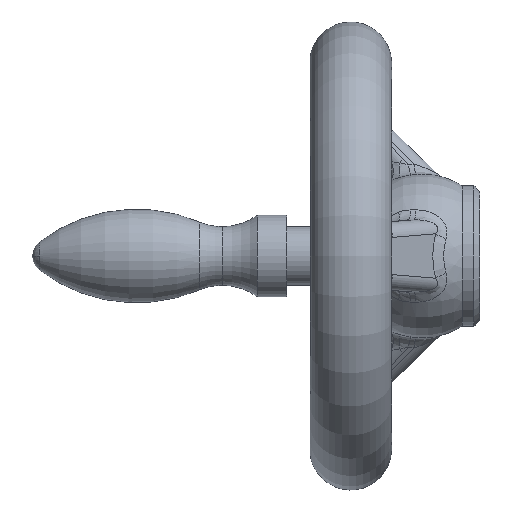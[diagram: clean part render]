
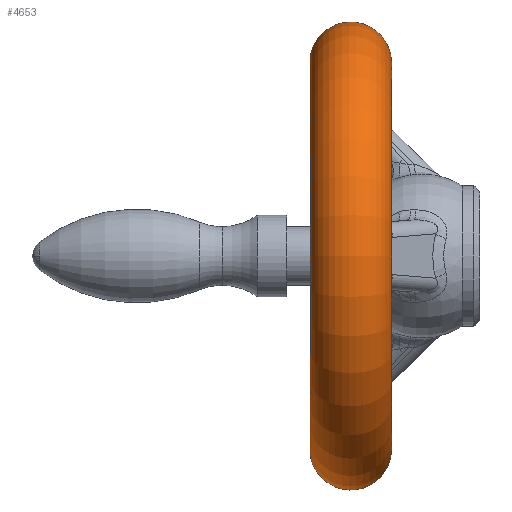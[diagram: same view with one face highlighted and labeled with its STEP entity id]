
A CAD part, left-side view. The second image highlights one B-rep face of the part: STEP entity #4653.
In plain terms, the highlighted toroidal (fillet/blend) face has major radius 33 mm and minor radius 7 mm.
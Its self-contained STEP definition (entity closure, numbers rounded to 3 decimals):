
#2538 = ORIENTED_EDGE ( 'NONE', *, *, #8335, .F. ) ;
#2693 = EDGE_LOOP ( 'NONE', ( #2538, #4658, #4661, #22777 ) ) ;
#4653 = ADVANCED_FACE ( 'NONE', ( #17841 ), #17839, .T. ) ;
#4658 = ORIENTED_EDGE ( 'NONE', *, *, #9656, .T. ) ;
#4661 = ORIENTED_EDGE ( 'NONE', *, *, #8287, .T. ) ;
#7942 = VERTEX_POINT ( 'NONE', #18082 ) ;
#8005 = VERTEX_POINT ( 'NONE', #18106 ) ;
#8082 = EDGE_CURVE ( 'NONE', #7942, #8005, #18104, .T. ) ;
#8287 = EDGE_CURVE ( 'NONE', #9606, #8005, #18087, .T. ) ;
#8335 = EDGE_CURVE ( 'NONE', #9646, #7942, #18127, .T. ) ;
#9606 = VERTEX_POINT ( 'NONE', #19065 ) ;
#9646 = VERTEX_POINT ( 'NONE', #19099 ) ;
#9656 = EDGE_CURVE ( 'NONE', #9646, #9606, #20868, .T. ) ;
#17833 = DIRECTION ( 'NONE',  ( 0., 0., -1. ) ) ;
#17834 = DIRECTION ( 'NONE',  ( 0., -1., 0. ) ) ;
#17835 = CARTESIAN_POINT ( 'NONE',  ( 0., 22.072, 0. ) ) ;
#17839 = TOROIDAL_SURFACE ( 'NONE', #17846, 33., 7. ) ;
#17841 = FACE_OUTER_BOUND ( 'NONE', #2693, .T. ) ;
#17846 = AXIS2_PLACEMENT_3D ( 'NONE', #17835, #17834, #17833 ) ;
#18082 = CARTESIAN_POINT ( 'NONE',  ( 0., 15.076, 33.25 ) ) ;
#18083 = DIRECTION ( 'NONE',  ( 0., 0., -1. ) ) ;
#18084 = DIRECTION ( 'NONE',  ( 0., -1., 0. ) ) ;
#18085 = CARTESIAN_POINT ( 'NONE',  ( 0., 15.076, 0. ) ) ;
#18087 = CIRCLE ( 'NONE', #18088, 7. ) ;
#18088 = AXIS2_PLACEMENT_3D ( 'NONE', #18133, #18132, #18131 ) ;
#18091 = AXIS2_PLACEMENT_3D ( 'NONE', #18085, #18084, #18083 ) ;
#18104 = CIRCLE ( 'NONE', #18091, 33.25 ) ;
#18106 = CARTESIAN_POINT ( 'NONE',  ( 0., 15.076, -33.25 ) ) ;
#18118 = DIRECTION ( 'NONE',  ( 0., 0., -1. ) ) ;
#18119 = DIRECTION ( 'NONE',  ( 1., 0., 0. ) ) ;
#18120 = CARTESIAN_POINT ( 'NONE',  ( 0., 22.072, 33. ) ) ;
#18121 = AXIS2_PLACEMENT_3D ( 'NONE', #18120, #18119, #18118 ) ;
#18127 = CIRCLE ( 'NONE', #18121, 7. ) ;
#18131 = DIRECTION ( 'NONE',  ( 0., 0., 1. ) ) ;
#18132 = DIRECTION ( 'NONE',  ( -1., 0., 0. ) ) ;
#18133 = CARTESIAN_POINT ( 'NONE',  ( 0., 22.072, -33. ) ) ;
#19065 = CARTESIAN_POINT ( 'NONE',  ( 0., 29., -34. ) ) ;
#19099 = CARTESIAN_POINT ( 'NONE',  ( 0., 29., 34. ) ) ;
#20852 = AXIS2_PLACEMENT_3D ( 'NONE', #20862, #20861, #20859 ) ;
#20859 = DIRECTION ( 'NONE',  ( 0., 0., -1. ) ) ;
#20861 = DIRECTION ( 'NONE',  ( 0., -1., 0. ) ) ;
#20862 = CARTESIAN_POINT ( 'NONE',  ( 0., 29., 0. ) ) ;
#20868 = CIRCLE ( 'NONE', #20852, 34. ) ;
#22777 = ORIENTED_EDGE ( 'NONE', *, *, #8082, .F. ) ;
